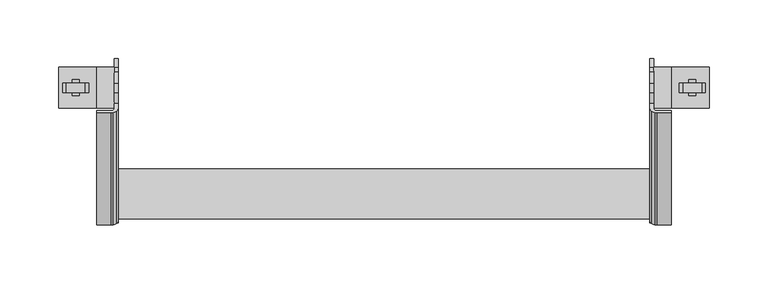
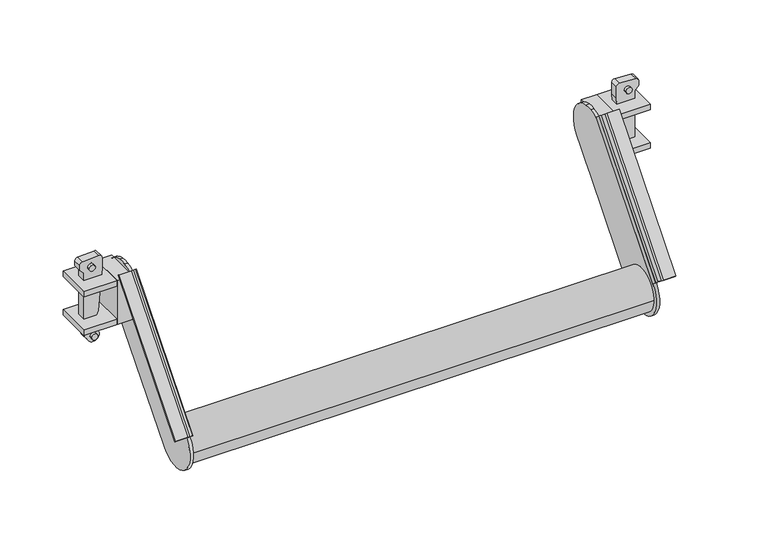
"""IFC4 building model written with IfcOpenShell, lengths in millimetres: proxy geometry, アルバトロスＡＫ階段受け_軽 : アルバトロスＡＫ階段受けL=600."""

import ifcopenshell
import ifcopenshell.guid

model = None  # the IFC model being written
_history = None  # IfcOwnerHistory: only IFC2X3 demands one
_inside = {}  # id of a spatial element -> (the spatial element, [elements in it])
_under = {}  # id of a project, library or spatial element -> (it, [spatial elements below it])
_declared = {}  # id of a project -> (the project, [libraries it declares])
_typed = {}  # id of a type object -> (the type object, [elements of that type])
_made_of = {}  # id of a material, layer set ... -> (it, [elements and type objects made of it])


def new_model(schema):
    """Start an empty IFC model of exactly this schema.

    Asked for "IFC4X3", IfcOpenShell would pick the latest addendum, in which some entities
    have other attributes; the version numbers below select the first issue.
    IFC2X3 requires an IfcOwnerHistory on every rooted entity: one is made here for all.
    """
    global model, _history
    if schema == "IFC4X3":
        model = ifcopenshell.file(schema_version=(4, 3, 0, 0))
    else:
        model = ifcopenshell.file(schema=schema)
    _inside.clear()
    _under.clear()
    _declared.clear()
    _typed.clear()
    _made_of.clear()
    _history = None
    if model.schema == "IFC2X3":
        org = make("IfcOrganization", Name="unknown")
        user = make(
            "IfcPersonAndOrganization",
            ThePerson=make("IfcPerson", FamilyName="unknown"),
            TheOrganization=org,
        )
        app = make(
            "IfcApplication",
            ApplicationDeveloper=org,
            Version="unknown",
            ApplicationFullName="unknown",
            ApplicationIdentifier="unknown",
        )
        _history = make(
            "IfcOwnerHistory",
            OwningUser=user,
            OwningApplication=app,
            ChangeAction="ADDED",
            CreationDate=0,
        )
    return model


def make(cls, **values):
    """One entity of the class cls with the attributes given. An attribute that is None is left unset."""
    return model.create_entity(
        cls, **{name: value for name, value in values.items() if value is not None}
    )


def rooted(cls, **values):
    """An entity with a GlobalId (a new one), such as an element, a storey or a relation."""
    return make(cls, GlobalId=ifcopenshell.guid.new(), OwnerHistory=_history, **values)


def si_unit(unit_type, name, prefix=None):
    """IfcSIUnit, for example si_unit("LENGTHUNIT", "METRE", prefix="MILLI")."""
    return make("IfcSIUnit", UnitType=unit_type, Prefix=prefix, Name=name)


def assignment(units):
    """IfcUnitAssignment: the units of a project."""
    return None if units is None else make("IfcUnitAssignment", Units=units)


def point(xyz):
    """IfcCartesianPoint."""
    return None if xyz is None else make("IfcCartesianPoint", Coordinates=xyz)


def direction(xyz):
    """IfcDirection."""
    return None if xyz is None else make("IfcDirection", DirectionRatios=xyz)


def frame(location, z_axis=None, x_axis=None):
    """IfcAxis2Placement3D, a coordinate frame: its origin and axes. An axis left out is left unset."""
    return make(
        "IfcAxis2Placement3D",
        Location=point(location),
        Axis=direction(z_axis),
        RefDirection=direction(x_axis),
    )


def frame_2d(location, x_axis=None):
    """IfcAxis2Placement2D, a coordinate frame in the plane: its origin and x axis."""
    return make(
        "IfcAxis2Placement2D", Location=point(location), RefDirection=direction(x_axis)
    )


def origin():
    """The frame at (0, 0, 0) with its axes left unset."""
    return frame((0.0, 0.0, 0.0))


def place(relative_to, where):
    """IfcLocalPlacement: puts the frame where relative to a parent placement (None: the world)."""
    return make(
        "IfcLocalPlacement", PlacementRelTo=relative_to, RelativePlacement=where
    )


def context(
    kind, dimensions, precision=None, world=None, true_north=None, identifier=None
):
    """IfcGeometricRepresentationContext, for example the 3D "Model" context."""
    return make(
        "IfcGeometricRepresentationContext",
        ContextIdentifier=identifier,
        ContextType=kind,
        CoordinateSpaceDimension=dimensions,
        Precision=precision,
        WorldCoordinateSystem=world,
        TrueNorth=true_north,
    )


def project(units=None, contexts=None):
    """IfcProject with its units and contexts."""
    return rooted(
        "IfcProject",
        Name="project",
        RepresentationContexts=contexts,
        UnitsInContext=assignment(units),
    )


def spatial(cls, under=None, at=None, **own):
    """A site, building, storey or space (cls), placed at a placement, below another one or the project."""
    s = rooted(cls, ObjectPlacement=at, **own)
    if under is not None:
        _under.setdefault(under.id(), (under, []))[1].append(s)
    return s


def polyline(points):
    """IfcPolyline through the points."""
    return make("IfcPolyline", Points=[point(p) for p in points])


def circle_curve(where, radius):
    """IfcCircle in the frame where."""
    return make("IfcCircle", Position=where, Radius=radius)


def trimmed(basis, trim1, trim2, sense, master):
    """IfcTrimmedCurve: the piece of a basis curve between two trims."""
    return make(
        "IfcTrimmedCurve",
        BasisCurve=basis,
        Trim1=trim1,
        Trim2=trim2,
        SenseAgreement=sense,
        MasterRepresentation=master,
    )


def segment(curve, same_sense, transition):
    """IfcCompositeCurveSegment."""
    return make(
        "IfcCompositeCurveSegment",
        Transition=transition,
        SameSense=same_sense,
        ParentCurve=curve,
    )


def composite_curve(segments, self_intersect=None):
    """IfcCompositeCurve: segments joined end to end."""
    return make("IfcCompositeCurve", Segments=segments, SelfIntersect=self_intersect)


def outline(outer, holes=None, kind="AREA"):
    """IfcArbitraryClosedProfileDef: a profile drawn as a closed curve; with holes, ...WithVoids."""
    if holes is None:
        return make("IfcArbitraryClosedProfileDef", ProfileType=kind, OuterCurve=outer)
    return make(
        "IfcArbitraryProfileDefWithVoids",
        ProfileType=kind,
        OuterCurve=outer,
        InnerCurves=holes,
    )


def extrude(swept, where, along, depth):
    """IfcExtrudedAreaSolid: the profile swept, set in the frame where, extruded along a direction by depth."""
    return make(
        "IfcExtrudedAreaSolid",
        SweptArea=swept,
        Position=where,
        ExtrudedDirection=direction(along),
        Depth=depth,
    )


def shape(context_of_items, identifier, shape_type, items):
    """IfcShapeRepresentation: the items that make up one representation, for example the "Body"."""
    return make(
        "IfcShapeRepresentation",
        ContextOfItems=context_of_items,
        RepresentationIdentifier=identifier,
        RepresentationType=shape_type,
        Items=items,
    )


def source(mapping_origin, context_of_items, identifier, shape_type, items):
    """IfcRepresentationMap: a shape defined once, which mapped items show again and again."""
    return make(
        "IfcRepresentationMap",
        MappingOrigin=mapping_origin,
        MappedRepresentation=shape(context_of_items, identifier, shape_type, items),
    )


def transform(
    local_origin,
    x_axis=None,
    y_axis=None,
    z_axis=None,
    scale=None,
    scale2=None,
    scale3=None,
    uniform=True,
):
    """IfcCartesianTransformationOperator3D, or its non-uniform kind. x_axis, y_axis, z_axis: its Axis1, 2, 3."""
    if uniform:
        return make(
            "IfcCartesianTransformationOperator3D",
            Axis1=direction(x_axis),
            Axis2=direction(y_axis),
            LocalOrigin=point(local_origin),
            Scale=scale,
            Axis3=direction(z_axis),
        )
    return make(
        "IfcCartesianTransformationOperator3DnonUniform",
        Axis1=direction(x_axis),
        Axis2=direction(y_axis),
        LocalOrigin=point(local_origin),
        Scale=scale,
        Axis3=direction(z_axis),
        Scale2=scale2,
        Scale3=scale3,
    )


def mapped(mapping_source, mapping_target):
    """IfcMappedItem: shows the shape of a source again, moved by a transform."""
    return make(
        "IfcMappedItem", MappingSource=mapping_source, MappingTarget=mapping_target
    )


def made_of(thing, what):
    """Note that an element or type object is made of a material, layer set ...; save() writes the relation."""
    if what is not None:
        _made_of.setdefault(what.id(), (what, []))[1].append(thing)
    return thing


def element(
    cls,
    number,
    at=None,
    inside=None,
    cuts=None,
    type_object=None,
    material=None,
    context=None,
    identifier="Body",
    shape_type=None,
    held_by="IfcProductDefinitionShape",
    body=None,
    shapes=None,
    **own,
):
    """One element of the class cls, such as IfcWall. Its Tag is "e" and its number.

    at: its placement. inside: the storey or other place that contains it. cuts: it is an
    opening in that element (IfcRelVoidsElement). A single representation is given by context,
    identifier, shape_type and body (its items); several are given by shapes. held_by: the class
    of the entity that holds the representations. save() writes the other relations.
    """
    e = rooted(cls, Tag="e%d" % number, ObjectPlacement=at, **own)
    if body is not None:
        shapes = [shape(context, identifier, shape_type, body)]
    if shapes is not None:
        e.Representation = make(held_by, Representations=shapes)
    if inside is not None:
        _inside.setdefault(inside.id(), (inside, []))[1].append(e)
    if cuts is not None:
        rooted(
            "IfcRelVoidsElement", RelatingBuildingElement=cuts, RelatedOpeningElement=e
        )
    if type_object is not None:
        _typed.setdefault(type_object.id(), (type_object, []))[1].append(e)
    return made_of(e, material)


def aggregate(whole, parts):
    """IfcRelAggregates: a whole, such as a stair, and the parts it consists of."""
    return rooted("IfcRelAggregates", RelatingObject=whole, RelatedObjects=parts)


def save(model, path):
    """Write the relations noted so far, then the file.

    IfcRelAggregates (storeys below a building ...), IfcRelContainedInSpatialStructure (elements
    in a storey), IfcRelDefinesByType, IfcRelAssociatesMaterial and IfcRelDeclares: one each for
    every whole, place, type object, material and project.
    """
    for whole, parts in _under.values():
        aggregate(whole, parts)
    for where, things in _inside.values():
        rooted(
            "IfcRelContainedInSpatialStructure",
            RelatedElements=things,
            RelatingStructure=where,
        )
    for kind, things in _typed.values():
        rooted("IfcRelDefinesByType", RelatedObjects=things, RelatingType=kind)
    for what, things in _made_of.values():
        rooted("IfcRelAssociatesMaterial", RelatedObjects=things, RelatingMaterial=what)
    for by, libraries in _declared.values():
        rooted("IfcRelDeclares", RelatingContext=by, RelatedDefinitions=libraries)
    model.write(path)


def plane_surface(at):
    """IfcPlane: the flat surface through the origin of the frame at, square to its z axis."""
    return make("IfcPlane", Position=at)


def cylinder_surface(at, radius):
    """IfcCylindricalSurface: all points at the distance radius from the z axis of the frame at."""
    return make("IfcCylindricalSurface", Position=at, Radius=radius)


def revolved_surface(curve, axis_point, axis_direction):
    """IfcSurfaceOfRevolution: the curve turned about the line through axis_point along axis_direction."""
    return make(
        "IfcSurfaceOfRevolution",
        SweptCurve=make("IfcArbitraryOpenProfileDef", ProfileType="CURVE", Curve=curve),
        AxisPosition=make("IfcAxis1Placement", Location=point(axis_point), Axis=direction(axis_direction)),
    )


def advanced_brep(points, edges, surfaces, faces):
    """IfcAdvancedBrep: a solid bounded by faces that lie on surfaces and meet in shared edges.

    An edge is (start, end): straight between two places in points (the first is 0);
    or (start, end, curve); or (start, end, curve, False) where it runs against its curve.
    A face is (place in surfaces, loops), or (place, loops, False) where it looks against
    its surface's normal. A loop lists edges by number (the first is 1), with a minus sign
    where the edge is run from its end to its start. The first loop is the outer one.
    """
    corners = [point(p) for p in points]
    vertices = [make("IfcVertexPoint", VertexGeometry=c) for c in corners]
    made = []
    for start, end, *more in edges:
        made.append(
            make(
                "IfcEdgeCurve",
                EdgeStart=vertices[start],
                EdgeEnd=vertices[end],
                EdgeGeometry=more[0] if more else make("IfcPolyline", Points=[corners[start], corners[end]]),
                SameSense=more[1] if len(more) > 1 else True,
            )
        )
    hull = []
    for where, loops, *sense in faces:
        bounds = []
        for j, loop in enumerate(loops):
            ring = [make("IfcOrientedEdge", EdgeElement=made[abs(k) - 1], Orientation=k > 0) for k in loop]
            bounds.append(
                make(
                    "IfcFaceOuterBound" if j == 0 else "IfcFaceBound",
                    Bound=make("IfcEdgeLoop", EdgeList=ring),
                    Orientation=True,
                )
            )
        hull.append(make("IfcAdvancedFace", Bounds=bounds, FaceSurface=surfaces[where], SameSense=sense[0] if sense else True))
    return make("IfcAdvancedBrep", Outer=make("IfcClosedShell", CfsFaces=hull))


def generic_models_9ba98fb6(model_context):
    return source(origin(), model_context, "Body", "SolidModel", [
        extrude(outline(composite_curve([segment(trimmed(circle_curve(frame_2d((11.8000984, -9.7357724)), 9.7357724), [point((11.8000984, 0.0))], [point((14.2492943, -0.3131027))], False, "CARTESIAN"), True, "CONTINUOUS"), segment(trimmed(circle_curve(frame_2d((12.9630797, -6.2319614)), 6.0569989), [point((14.2492943, -0.3131027))], [point((17.1215477, -1.8280564))], False, "CARTESIAN"), True, "CONTINUOUS"), segment(trimmed(circle_curve(frame_2d((14.7414988, -4.3485782)), 3.4666502), [point((17.1215477, -1.8280564))], [point((18.2001533, -4.113266))], False, "CARTESIAN"), True, "CONTINUOUS"), segment(polyline([(18.2001533, -4.113266), (18.2001533, -4.9115919), (18.2001533, -10.0000796), (15.0001259, -10.0000796), (15.0001259, -4.2792333)]), True, "CONTINUOUS"), segment(trimmed(circle_curve(frame_2d((13.1269546, -4.2792333)), 1.8731712), [point((15.0001259, -4.2792333))], [point((14.1616095, -2.7177405))], True, "CARTESIAN"), True, "CONTINUOUS"), segment(trimmed(circle_curve(frame_2d((12.2844233, -5.5507747)), 3.398516), [point((14.1616095, -2.7177405))], [point((13.1884404, -2.2747002))], True, "CARTESIAN"), True, "CONTINUOUS"), segment(trimmed(circle_curve(frame_2d((11.8000984, -6.5851611)), 4.5285281), [point((13.1884404, -2.2747002))], [point((11.8000984, -2.056633))], True, "CARTESIAN"), True, "CONTINUOUS"), segment(polyline([(11.8000984, -2.056633), (0.0, -2.056633), (0.0, 0.0), (11.8000984, 0.0)]), True, "CONTINUOUS")], self_intersect=False)), frame((545.2046585, -117.4153513, -83.5064838), z_axis=(0.0, 0.6426904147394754, 0.766125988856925), x_axis=(-1.0, 0.0, 0.0)), (0.0, 0.0, 1.0), 149.5729326),
        advanced_brep(
        [(527.0045052, -71.4170946, -122.0320182), (527.0045052, -109.7540265, -89.9334299), (527.0045052, -19.1532386, 18.0674174), (527.0045052, -13.564759, 23.0001302), (527.0045052, -4.0000184, 26.6780861), (527.0045052, 4.0000533, 26.678085), (527.0045052, 13.5647929, 23.0001265), (527.0045052, 17.5001651, 19.8536704), (527.0045052, 19.1532686, -14.0675085), (527.0045052, 11.6596821, -23.0002552), (527.0045052, 4.0001362, -32.1309487), (527.0045052, -4.000061, -41.6673923), (530.2045326, -71.4170946, -122.0320182), (530.2045326, -4.000061, -41.6673923), (530.2045326, 4.0672955, -32.0506818), (530.2045326, 11.6596821, -23.0002552), (530.2045326, 19.1532686, -14.0675085), (530.2045326, 17.5001651, 19.8536704), (530.2045326, 13.5647929, 23.0001265), (530.2045326, 4.0000533, 26.678085), (530.2045326, -4.0000184, 26.6780861), (530.2045326, -13.564759, 23.0001302), (530.2045326, -19.1532386, 18.0674174), (530.2045326, -109.7540271, -89.9334352)],
        [
            (0, 1, circle_curve(frame((527.0045052, -90.600769, -106.0008883), z_axis=(-1.0, 0.0, 0.0), x_axis=(0.0, 1.0, 0.0)), 25.0002098)),
            (1, 2),
            (2, 3, circle_curve(frame((527.0045052, 1.42e-05, 1.9999535), z_axis=(-1.0, 0.0, 0.0), x_axis=(0.0, 1.0, 0.0)), 25.0002098)),
            (3, 4, circle_curve(frame((527.0045052, 1.42e-05, 1.9999535), z_axis=(-1.0, 0.0, 0.0), x_axis=(0.0, 1.0, 0.0)), 25.0002098)),
            (4, 5, circle_curve(frame((527.0045052, 1.42e-05, 1.9999535), z_axis=(-1.0, 0.0, 0.0), x_axis=(0.0, 1.0, 0.0)), 25.0002098)),
            (5, 6, circle_curve(frame((527.0045052, 1.42e-05, 1.9999535), z_axis=(-1.0, 0.0, 0.0), x_axis=(0.0, 1.0, 0.0)), 25.0002098)),
            (6, 7, circle_curve(frame((527.0045052, 1.42e-05, 1.9999535), z_axis=(-1.0, 0.0, 0.0), x_axis=(0.0, 1.0, 0.0)), 25.0002098)),
            (7, 8, circle_curve(frame((527.0045052, 1.42e-05, 1.9999535), z_axis=(-1.0, 0.0, 0.0), x_axis=(0.0, 1.0, 0.0)), 25.0002098)),
            (8, 9),
            (9, 10),
            (10, 11),
            (11, 0),
            (12, 13),
            (13, 14),
            (14, 15),
            (15, 16),
            (16, 17, circle_curve(frame((530.2045326, 1.42e-05, 1.9999535), z_axis=(1.0, 0.0, 0.0), x_axis=(0.0, 1.0, 0.0)), 25.0002098)),
            (17, 18, circle_curve(frame((530.2045326, 1.42e-05, 1.9999535), z_axis=(1.0, 0.0, 0.0), x_axis=(0.0, 1.0, 0.0)), 25.0002098)),
            (18, 19, circle_curve(frame((530.2045326, 1.42e-05, 1.9999535), z_axis=(1.0, 0.0, 0.0), x_axis=(0.0, 1.0, 0.0)), 25.0002098)),
            (19, 20, circle_curve(frame((530.2045326, 1.42e-05, 1.9999535), z_axis=(1.0, 0.0, 0.0), x_axis=(0.0, 1.0, 0.0)), 25.0002098)),
            (20, 21, circle_curve(frame((530.2045326, 1.42e-05, 1.9999535), z_axis=(1.0, 0.0, 0.0), x_axis=(0.0, 1.0, 0.0)), 25.0002098)),
            (21, 22, circle_curve(frame((530.2045326, 1.42e-05, 1.9999535), z_axis=(1.0, 0.0, 0.0), x_axis=(0.0, 1.0, 0.0)), 25.0002098)),
            (22, 23),
            (23, 12, circle_curve(frame((530.2045326, -90.600769, -106.0008883), z_axis=(1.0, 0.0, 0.0), x_axis=(0.0, 1.0, 0.0)), 25.0002098)),
            (11, 13),
            (12, 0),
            (10, 14),
            (9, 15),
            (8, 16),
            (7, 17),
            (6, 18),
            (5, 19),
            (4, 20),
            (3, 21),
            (2, 22),
            (1, 23),
        ],
        [
            plane_surface(frame((527.0045052, -65.6005592, -106.0008883), z_axis=(-1.0, 0.0, 0.0), x_axis=(0.0, 0.0, -1.0))),
            plane_surface(frame((530.2045326, -65.6005592, -106.0008883), z_axis=(1.0, 0.0, 0.0), x_axis=(0.0, 0.0, 1.0))),
            plane_surface(frame((527.0045052, -4.000061, -41.6673923), z_axis=(0.0, 0.7661237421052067, -0.6426930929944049), x_axis=(1.0, 0.0, 0.0))),
            plane_surface(frame((527.0045052, 4.0672955, -32.0506818), z_axis=(0.0, 0.7661237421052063, -0.6426930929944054), x_axis=(1.0, 0.0, 0.0))),
            plane_surface(frame((527.0045052, 11.6596821, -23.0002552), z_axis=(0.0, 0.76612771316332, -0.6426883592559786), x_axis=(1.0, 0.0, 0.0))),
            plane_surface(frame((527.0045052, 19.1532686, -14.0675085), z_axis=(0.0, 0.7661237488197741, -0.6426930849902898), x_axis=(1.0, 0.0, 0.0))),
            cylinder_surface(frame((530.2045326, 1.42e-05, 1.9999535), z_axis=(-1.0, 0.0, 0.0), x_axis=(0.0, 1.0, 0.0)), 25.0002098),
            plane_surface(frame((527.0045052, -109.7540271, -89.9334352), z_axis=(0.0, -0.7661236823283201, 0.6426931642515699), x_axis=(1.0, 0.0, 0.0))),
            cylinder_surface(frame((530.2045326, -90.600769, -106.0008883), z_axis=(-1.0, 0.0, 0.0), x_axis=(0.0, 1.0, 0.0)), 25.0002098),
        ],
        [
            (0, [[1, 2, 3, 4, 5, 6, 7, 8, 9, 10, 11, 12]]),
            (1, [[13, 14, 15, 16, 17, 18, 19, 20, 21, 22, 23, 24]]),
            (2, [[-12, 25, -13, 26]]),
            (3, [[-11, 27, -14, -25]]),
            (4, [[-10, 28, -15, -27]]),
            (5, [[-9, 29, -16, -28]]),
            (6, [[-8, 30, -17, -29]]),
            (6, [[-7, 31, -18, -30]]),
            (6, [[-6, 32, -19, -31]]),
            (6, [[-5, 33, -20, -32]]),
            (6, [[-4, 34, -21, -33]]),
            (6, [[-3, 35, -22, -34]]),
            (7, [[-2, 36, -23, -35]]),
            (8, [[-1, -26, -24, -36]]),
        ],
    ),
        extrude(outline(composite_curve([segment(polyline([(-11.8000984, 0.0), (0.0, 0.0), (0.0, -2.056633), (-11.8000984, -2.056633)]), True, "CONTINUOUS"), segment(trimmed(circle_curve(frame_2d((-11.8000984, -6.5851611)), 4.5285281), [point((-11.8000984, -2.056633))], [point((-13.1884404, -2.2747002))], True, "CARTESIAN"), True, "CONTINUOUS"), segment(trimmed(circle_curve(frame_2d((-12.2844233, -5.5507747)), 3.398516), [point((-13.1884404, -2.2747002))], [point((-14.1616095, -2.7177405))], True, "CARTESIAN"), True, "CONTINUOUS"), segment(trimmed(circle_curve(frame_2d((-13.1269546, -4.2792333)), 1.8731712), [point((-14.1616095, -2.7177405))], [point((-15.0001259, -4.2792333))], True, "CARTESIAN"), True, "CONTINUOUS"), segment(polyline([(-15.0001259, -4.2792333), (-15.0001259, -10.0000796), (-18.2001533, -10.0000796), (-18.2001533, -4.9115919), (-18.2001533, -4.113266)]), True, "CONTINUOUS"), segment(trimmed(circle_curve(frame_2d((-14.7414988, -4.3485782)), 3.4666502), [point((-18.2001533, -4.113266))], [point((-17.1215477, -1.8280564))], False, "CARTESIAN"), True, "CONTINUOUS"), segment(trimmed(circle_curve(frame_2d((-12.9630797, -6.2319614)), 6.0569989), [point((-17.1215477, -1.8280564))], [point((-14.2492943, -0.3131027))], False, "CARTESIAN"), True, "CONTINUOUS"), segment(trimmed(circle_curve(frame_2d((-11.8000984, -9.7357724)), 9.7357724), [point((-14.2492943, -0.3131027))], [point((-11.8000984, 0.0))], False, "CARTESIAN"), True, "CONTINUOUS")], self_intersect=False)), frame((54.7953415, -117.4153513, -83.5064838), z_axis=(0.0, 0.6426904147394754, 0.766125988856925), x_axis=(-1.0, 0.0, 0.0)), (0.0, 0.0, 1.0), 149.5729326),
        extrude(outline(polyline([(530.2045326, -17.5001831), (530.2045326, 17.500061), (545.2046585, 17.500061), (545.2046585, -17.5001831), (530.2045326, -17.5001831)])), frame((0.0, 0.0, -23.0001931), z_axis=(0.0, 0.0, 1.0), x_axis=(1.0, 0.0, 0.0)), (0.0, 0.0, 1.0), 46.0003862),
        extrude(outline(polyline([(545.2046585, -17.5001831), (545.2046585, 17.500061), (577.7249298, 17.500061), (577.7249298, -17.5001831), (545.2046585, -17.5001831)])), frame((0.0, 0.0, -23.0001931), z_axis=(0.0, 0.0, 1.0), x_axis=(1.0, 0.0, 0.0)), (0.0, 0.0, 1.0), 6.0000505),
        extrude(outline(polyline([(545.2046585, -17.5001831), (545.2046585, 17.500061), (577.7249298, 17.500061), (577.7249298, -17.5001831), (545.2046585, -17.5001831)])), frame((0.0, 0.0, 17.0001426), z_axis=(0.0, 0.0, 1.0), x_axis=(1.0, 0.0, 0.0)), (0.0, 0.0, 1.0), 6.0000505),
        extrude(outline(composite_curve([segment(trimmed(circle_curve(frame_2d((-36.8688423, 560.6740685)), 3.000025), [point((-36.8688423, 563.6740935))], [point((-36.8688423, 557.6740435))], False, "CARTESIAN"), True, "CONTINUOUS"), segment(trimmed(circle_curve(frame_2d((-36.8688423, 560.6740685)), 3.000025), [point((-36.8688423, 557.6740435))], [point((-36.8688423, 563.6740935))], False, "CARTESIAN"), True, "CONTINUOUS")], self_intersect=False)), frame((0.0, -6.7180681, 0.0), z_axis=(0.0, 1.0, 0.0), x_axis=(0.0, 0.0, 1.0)), (0.0, 0.0, 1.0), 13.4905305),
        extrude(outline(composite_curve([segment(trimmed(circle_curve(frame_2d((35.318295, 563.1048088)), 3.000025), [point((35.318295, 566.1048338))], [point((35.318295, 560.1047838))], False, "CARTESIAN"), True, "CONTINUOUS"), segment(trimmed(circle_curve(frame_2d((35.318295, 563.1048088)), 3.000025), [point((35.318295, 560.1047838))], [point((35.318295, 566.1048338))], False, "CARTESIAN"), True, "CONTINUOUS")], self_intersect=False)), frame((0.0, -6.7180681, 0.0), z_axis=(0.0, 1.0, 0.0), x_axis=(0.0, 0.0, 1.0)), (0.0, 0.0, 1.0), 13.4905305),
        advanced_brep(
        [(570.104866, -4.000061, 23.0001931), (570.104866, -4.000061, 31.3182626), (574.1049004, -4.000061, 35.318295), (574.1049004, -4.000061, 40.1273351), (571.1049024, -4.000061, 43.1273601), (555.1047689, -4.000061, 44.0563686), (552.1047151, -4.000061, 41.0563436), (552.1047134, -4.000061, 29.3182692), (553.2329292, -4.000061, 17.0001426), (555.9327461, -4.000061, -12.4770955), (557.7334455, -4.000061, -17.0001397), (558.6987605, -4.000061, -23.0001924), (557.6076064, -4.000061, -31.3049199), (555.9855843, -4.000061, -33.6219478), (565.2963577, -4.000061, -41.1471163), (570.1048641, -4.000061, -28.9002414), (570.104866, -4.000061, -23.0001922), (570.104866, -4.000061, -17.0001426), (570.104866, -4.000061, 17.0001426), (570.104866, 4.000061, 23.0001931), (570.104866, 4.000061, 17.0001426), (570.104866, 4.000061, -17.0001426), (570.104866, 4.000061, -23.0001922), (570.104866, 4.000061, -28.9002414), (565.2963577, 4.000061, -41.1471163), (555.9855849, 4.000061, -33.6219485), (557.6076064, 4.000061, -31.3049199), (558.6987605, 4.000061, -23.0001924), (557.7334455, 4.000061, -17.0001397), (555.9327461, 4.000061, -12.4770955), (553.2329292, 4.000061, 17.0001426), (552.1047134, 4.000061, 29.3182692), (552.1047134, 4.000061, 41.0563436), (555.1047689, 4.000061, 44.0563686), (571.1049024, 4.000061, 43.1273601), (574.1048987, 4.000061, 40.1273351), (574.1049004, 4.000061, 35.318295), (570.104866, 4.000061, 31.3182626)],
        [
            (0, 1),
            (1, 2),
            (2, 3),
            (3, 4, circle_curve(frame((571.1048737, -4.000061, 40.1273351), z_axis=(0.0, -1.0, 0.0), x_axis=(-1.0, 0.0, 0.0)), 3.000025)),
            (4, 5),
            (5, 6, circle_curve(frame((555.1047401, -4.000061, 41.0563436), z_axis=(0.0, -1.0, 0.0), x_axis=(-1.0, 0.0, 0.0)), 3.000025)),
            (6, 7),
            (7, 8),
            (8, 9),
            (9, 10, circle_curve(frame((533.7162895, -4.000061, -23.9418044), z_axis=(0.0, 1.0, 0.0), x_axis=(-1.0, 0.0, 0.0)), 25.0002098)),
            (10, 11),
            (11, 12, circle_curve(frame((533.7162895, -4.000061, -23.9418044), z_axis=(0.0, 1.0, 0.0), x_axis=(-1.0, 0.0, 0.0)), 25.0002098)),
            (12, 13),
            (13, 14, circle_curve(frame((560.9008598, -4.000061, -37.0629764), z_axis=(0.0, -1.0, 0.0), x_axis=(-1.0, 0.0, 0.0)), 6.0000501)),
            (14, 15, circle_curve(frame((552.1047134, -4.000061, -28.9002414), z_axis=(0.0, -1.0, 0.0), x_axis=(-1.0, 0.0, 0.0)), 18.0001507)),
            (15, 16),
            (16, 17),
            (17, 18),
            (18, 0),
            (19, 20),
            (20, 21),
            (21, 22),
            (22, 23),
            (23, 24, circle_curve(frame((552.1047134, 4.000061, -28.9002414), z_axis=(0.0, 1.0, 0.0), x_axis=(-1.0, 0.0, 0.0)), 18.0001507)),
            (24, 25, circle_curve(frame((560.9008598, 4.000061, -37.0629764), z_axis=(0.0, 1.0, 0.0), x_axis=(-1.0, 0.0, 0.0)), 6.0000501)),
            (25, 26),
            (26, 27, circle_curve(frame((533.7162895, 4.000061, -23.9418044), z_axis=(0.0, -1.0, 0.0), x_axis=(-1.0, 0.0, 0.0)), 25.0002098)),
            (27, 28),
            (28, 29, circle_curve(frame((533.7162895, 4.000061, -23.9418044), z_axis=(0.0, -1.0, 0.0), x_axis=(-1.0, 0.0, 0.0)), 25.0002098)),
            (29, 30),
            (30, 31),
            (31, 32),
            (32, 33, circle_curve(frame((555.1047401, 4.000061, 41.0563436), z_axis=(0.0, 1.0, 0.0), x_axis=(-1.0, 0.0, 0.0)), 3.000025)),
            (33, 34),
            (34, 35, circle_curve(frame((571.1048737, 4.000061, 40.1273351), z_axis=(0.0, 1.0, 0.0), x_axis=(-1.0, 0.0, 0.0)), 3.000025)),
            (35, 36),
            (36, 37),
            (37, 19),
            (18, 20),
            (19, 0),
            (17, 21),
            (16, 22),
            (15, 23),
            (14, 24),
            (13, 25),
            (12, 26),
            (11, 27),
            (10, 28),
            (9, 29),
            (8, 30),
            (7, 31),
            (6, 32),
            (5, 33),
            (4, 34),
            (3, 35),
            (2, 36),
            (1, 37),
        ],
        [
            plane_surface(frame((570.104866, -4.000061, 31.3182626), z_axis=(0.0, -1.0, 0.0), x_axis=(0.0, 0.0, 1.0))),
            plane_surface(frame((570.104866, 4.000061, 31.3182626), z_axis=(0.0, 1.0, 0.0), x_axis=(0.0, 0.0, -1.0))),
            plane_surface(frame((570.104866, -4.000061, 17.0001426), z_axis=(1.0, 0.0, 0.0), x_axis=(0.0, 1.0, 0.0))),
            plane_surface(frame((570.104866, -4.000061, -17.0001426), z_axis=(1.0, 0.0, 0.0), x_axis=(0.0, 1.0, 0.0))),
            plane_surface(frame((570.104866, -4.000061, -23.0001922), z_axis=(1.0, 0.0, 0.0), x_axis=(0.0, 1.0, 0.0))),
            plane_surface(frame((570.104866, -4.000061, -28.9002414), z_axis=(1.0, 0.0, 0.0), x_axis=(0.0, 1.0, 0.0))),
            cylinder_surface(frame((552.1047134, 4.000061, -28.9002414), z_axis=(0.0, -1.0, 0.0), x_axis=(-1.0, 0.0, 0.0)), 18.0001507),
            cylinder_surface(frame((560.9008598, 4.000061, -37.0629764), z_axis=(0.0, -1.0, 0.0), x_axis=(-1.0, 0.0, 0.0)), 6.0000501),
            plane_surface(frame((557.6076064, -4.000061, -31.3049199), z_axis=(-0.81921487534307, 0.0, 0.5734866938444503), x_axis=(0.0, 1.0, 0.0))),
            revolved_surface(polyline([(508.7160797, 4.000061, -23.9418044), (508.7160797, -4.000061, -23.9418044)]), (533.7162895, 4.000061, -23.9418044), (0.0, 1.0, 0.0)),
            plane_surface(frame((557.7334455, -4.000061, -17.0001397), z_axis=(-0.9873040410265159, 0.0, -0.15884184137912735), x_axis=(0.0, 1.0, 0.0))),
            plane_surface(frame((553.2329292, -4.000061, 17.0001426), z_axis=(-0.995831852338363, 0.0, -0.09120812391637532), x_axis=(0.0, 1.0, 0.0))),
            plane_surface(frame((552.1047134, -4.000061, 29.3182692), z_axis=(-0.995831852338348, 0.0, -0.0912081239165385), x_axis=(0.0, 1.0, 0.0))),
            plane_surface(frame((552.1047134, -4.000061, 41.0563436), z_axis=(-1.0, 0.0, 0.0), x_axis=(0.0, 1.0, 0.0))),
            cylinder_surface(frame((555.1047401, 4.000061, 41.0563436), z_axis=(0.0, -1.0, 0.0), x_axis=(-1.0, 0.0, 0.0)), 3.000025),
            plane_surface(frame((571.1049024, -4.000061, 43.1273601), z_axis=(0.05796492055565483, 0.0, 0.998318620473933), x_axis=(0.0, 1.0, 0.0))),
            cylinder_surface(frame((571.1048737, 4.000061, 40.1273351), z_axis=(0.0, -1.0, 0.0), x_axis=(-1.0, 0.0, 0.0)), 3.000025),
            plane_surface(frame((574.1049004, -4.000061, 35.318295), z_axis=(1.0, 0.0, 0.0), x_axis=(0.0, 1.0, 0.0))),
            plane_surface(frame((570.104866, -4.000061, 31.3182626), z_axis=(0.7071066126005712, 0.0, -0.7071069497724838), x_axis=(0.0, 1.0, 0.0))),
            plane_surface(frame((570.104866, -4.000061, 23.0001931), z_axis=(1.0, 0.0, 0.0), x_axis=(0.0, 1.0, 0.0))),
        ],
        [
            (0, [[1, 2, 3, 4, 5, 6, 7, 8, 9, 10, 11, 12, 13, 14, 15, 16, 17, 18, 19]]),
            (1, [[20, 21, 22, 23, 24, 25, 26, 27, 28, 29, 30, 31, 32, 33, 34, 35, 36, 37, 38]]),
            (2, [[-19, 39, -20, 40]]),
            (3, [[-18, 41, -21, -39]]),
            (4, [[-17, 42, -22, -41]]),
            (5, [[-16, 43, -23, -42]]),
            (6, [[-15, 44, -24, -43]]),
            (7, [[-14, 45, -25, -44]]),
            (8, [[-13, 46, -26, -45]]),
            (9, [[-12, 47, -27, -46]]),
            (10, [[-11, 48, -28, -47]]),
            (9, [[-10, 49, -29, -48]]),
            (11, [[-9, 50, -30, -49]]),
            (12, [[-8, 51, -31, -50]]),
            (13, [[-7, 52, -32, -51]]),
            (14, [[-6, 53, -33, -52]]),
            (15, [[-5, 54, -34, -53]]),
            (16, [[-4, 55, -35, -54]]),
            (17, [[-3, 56, -36, -55]]),
            (18, [[-2, 57, -37, -56]]),
            (19, [[-1, -40, -38, -57]]),
        ],
    ),
        extrude(outline(polyline([(69.7954674, 17.500061), (69.7954674, -17.5001831), (54.7953415, -17.5001831), (54.7953415, 17.500061), (69.7954674, 17.500061)])), frame((0.0, 0.0, -23.0001931), z_axis=(0.0, 0.0, 1.0), x_axis=(1.0, 0.0, 0.0)), (0.0, 0.0, 1.0), 46.0003862),
        extrude(outline(polyline([(54.7953415, 17.500061), (54.7953415, -17.5001831), (22.2750702, -17.5001831), (22.2750702, 17.500061), (54.7953415, 17.500061)])), frame((0.0, 0.0, -23.0001931), z_axis=(0.0, 0.0, 1.0), x_axis=(1.0, 0.0, 0.0)), (0.0, 0.0, 1.0), 6.0000505),
        extrude(outline(polyline([(54.7953415, 17.500061), (54.7953415, -17.5001831), (22.2750702, -17.5001831), (22.2750702, 17.500061), (54.7953415, 17.500061)])), frame((0.0, 0.0, 17.0001426), z_axis=(0.0, 0.0, 1.0), x_axis=(1.0, 0.0, 0.0)), (0.0, 0.0, 1.0), 6.0000505),
        extrude(outline(composite_curve([segment(trimmed(circle_curve(frame_2d((-36.8688423, 39.3259315)), 3.000025), [point((-36.8688423, 36.3259065))], [point((-36.8688423, 42.3259565))], False, "CARTESIAN"), True, "CONTINUOUS"), segment(trimmed(circle_curve(frame_2d((-36.8688423, 39.3259315)), 3.000025), [point((-36.8688423, 42.3259565))], [point((-36.8688423, 36.3259065))], False, "CARTESIAN"), True, "CONTINUOUS")], self_intersect=False)), frame((0.0, -6.7180681, 0.0), z_axis=(0.0, 1.0, 0.0), x_axis=(0.0, 0.0, 1.0)), (0.0, 0.0, 1.0), 13.4905305),
        extrude(outline(composite_curve([segment(trimmed(circle_curve(frame_2d((35.318295, 36.8951912)), 3.000025), [point((35.318295, 33.8951662))], [point((35.318295, 39.8952162))], False, "CARTESIAN"), True, "CONTINUOUS"), segment(trimmed(circle_curve(frame_2d((35.318295, 36.8951912)), 3.000025), [point((35.318295, 39.8952162))], [point((35.318295, 33.8951662))], False, "CARTESIAN"), True, "CONTINUOUS")], self_intersect=False)), frame((0.0, -6.7180681, 0.0), z_axis=(0.0, 1.0, 0.0), x_axis=(0.0, 0.0, 1.0)), (0.0, 0.0, 1.0), 13.4905305),
        advanced_brep(
        [(29.895134, -4.000061, 23.0001931), (29.895134, -4.000061, 17.0001426), (29.895134, -4.000061, -17.0001426), (29.895134, -4.000061, -23.0001922), (29.895134, -4.000061, -28.9002414), (34.7036423, -4.000061, -41.1471163), (44.0144151, -4.000061, -33.6219485), (42.3923936, -4.000061, -31.3049199), (41.3012395, -4.000061, -23.0001924), (42.2665545, -4.000061, -17.0001397), (44.0672539, -4.000061, -12.4770955), (46.7670708, -4.000061, 17.0001426), (47.8952866, -4.000061, 29.3182692), (47.8952866, -4.000061, 41.0563436), (44.8952311, -4.000061, 44.0563686), (28.8950976, -4.000061, 43.1273601), (25.8951013, -4.000061, 40.1273351), (25.8950996, -4.000061, 35.318295), (29.895134, -4.000061, 31.3182626), (29.895134, 4.000061, 23.0001931), (29.895134, 4.000061, 31.3182626), (25.8950996, 4.000061, 35.318295), (25.8950996, 4.000061, 40.1273351), (28.8950976, 4.000061, 43.1273601), (44.8952311, 4.000061, 44.0563686), (47.8952849, 4.000061, 41.0563436), (47.8952866, 4.000061, 29.3182692), (46.7670708, 4.000061, 17.0001426), (44.0672539, 4.000061, -12.4770955), (42.2665545, 4.000061, -17.0001397), (41.3012395, 4.000061, -23.0001924), (42.3923936, 4.000061, -31.3049199), (44.0144157, 4.000061, -33.6219478), (34.7036423, 4.000061, -41.1471163), (29.8951359, 4.000061, -28.9002414), (29.895134, 4.000061, -23.0001922), (29.895134, 4.000061, -17.0001426), (29.895134, 4.000061, 17.0001426)],
        [
            (0, 1),
            (1, 2),
            (2, 3),
            (3, 4),
            (4, 5, circle_curve(frame((47.8952866, -4.000061, -28.9002414), z_axis=(0.0, -1.0, 0.0), x_axis=(1.0, 0.0, 0.0)), 18.0001507)),
            (5, 6, circle_curve(frame((39.0991402, -4.000061, -37.0629764), z_axis=(0.0, -1.0, 0.0), x_axis=(1.0, 0.0, 0.0)), 6.0000501)),
            (6, 7),
            (7, 8, circle_curve(frame((66.2837105, -4.000061, -23.9418044), z_axis=(0.0, 1.0, 0.0), x_axis=(1.0, 0.0, 0.0)), 25.0002098)),
            (8, 9),
            (9, 10, circle_curve(frame((66.2837105, -4.000061, -23.9418044), z_axis=(0.0, 1.0, 0.0), x_axis=(1.0, 0.0, 0.0)), 25.0002098)),
            (10, 11),
            (11, 12),
            (12, 13),
            (13, 14, circle_curve(frame((44.8952599, -4.000061, 41.0563436), z_axis=(0.0, -1.0, 0.0), x_axis=(1.0, 0.0, 0.0)), 3.000025)),
            (14, 15),
            (15, 16, circle_curve(frame((28.8951263, -4.000061, 40.1273351), z_axis=(0.0, -1.0, 0.0), x_axis=(1.0, 0.0, 0.0)), 3.000025)),
            (16, 17),
            (17, 18),
            (18, 0),
            (19, 20),
            (20, 21),
            (21, 22),
            (22, 23, circle_curve(frame((28.8951263, 4.000061, 40.1273351), z_axis=(0.0, 1.0, 0.0), x_axis=(1.0, 0.0, 0.0)), 3.000025)),
            (23, 24),
            (24, 25, circle_curve(frame((44.8952599, 4.000061, 41.0563436), z_axis=(0.0, 1.0, 0.0), x_axis=(1.0, 0.0, 0.0)), 3.000025)),
            (25, 26),
            (26, 27),
            (27, 28),
            (28, 29, circle_curve(frame((66.2837105, 4.000061, -23.9418044), z_axis=(0.0, -1.0, 0.0), x_axis=(1.0, 0.0, 0.0)), 25.0002098)),
            (29, 30),
            (30, 31, circle_curve(frame((66.2837105, 4.000061, -23.9418044), z_axis=(0.0, -1.0, 0.0), x_axis=(1.0, 0.0, 0.0)), 25.0002098)),
            (31, 32),
            (32, 33, circle_curve(frame((39.0991402, 4.000061, -37.0629764), z_axis=(0.0, 1.0, 0.0), x_axis=(1.0, 0.0, 0.0)), 6.0000501)),
            (33, 34, circle_curve(frame((47.8952866, 4.000061, -28.9002414), z_axis=(0.0, 1.0, 0.0), x_axis=(1.0, 0.0, 0.0)), 18.0001507)),
            (34, 35),
            (35, 36),
            (36, 37),
            (37, 19),
            (0, 19),
            (37, 1),
            (36, 2),
            (35, 3),
            (34, 4),
            (33, 5),
            (32, 6),
            (31, 7),
            (30, 8),
            (29, 9),
            (28, 10),
            (27, 11),
            (26, 12),
            (25, 13),
            (24, 14),
            (23, 15),
            (22, 16),
            (21, 17),
            (20, 18),
        ],
        [
            plane_surface(frame((29.895134, -4.000061, 17.0001426), z_axis=(0.0, -1.0, 0.0), x_axis=(0.0, 0.0, -1.0))),
            plane_surface(frame((29.895134, 4.000061, 17.0001426), z_axis=(0.0, 1.0, 0.0), x_axis=(0.0, 0.0, 1.0))),
            plane_surface(frame((29.895134, -4.000061, 23.0001931), z_axis=(-1.0, 0.0, 0.0), x_axis=(0.0, 1.0, 0.0))),
            plane_surface(frame((29.895134, -4.000061, 17.0001426), z_axis=(-1.0, 0.0, 0.0), x_axis=(0.0, 1.0, 0.0))),
            plane_surface(frame((29.895134, -4.000061, -17.0001426), z_axis=(-1.0, 0.0, 0.0), x_axis=(0.0, 1.0, 0.0))),
            plane_surface(frame((29.895134, -4.000061, -23.0001922), z_axis=(-1.0, 0.0, 0.0), x_axis=(0.0, 1.0, 0.0))),
            cylinder_surface(frame((47.8952866, 4.000061, -28.9002414), z_axis=(0.0, -1.0, 0.0), x_axis=(1.0, 0.0, 0.0)), 18.0001507),
            cylinder_surface(frame((39.0991402, 4.000061, -37.0629764), z_axis=(0.0, -1.0, 0.0), x_axis=(1.0, 0.0, 0.0)), 6.0000501),
            plane_surface(frame((44.0144157, -4.000061, -33.6219478), z_axis=(0.8192148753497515, 0.0, 0.5734866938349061), x_axis=(0.0, 1.0, 0.0))),
            revolved_surface(polyline([(91.2839203, 4.000061, -23.9418044), (91.2839203, -4.000061, -23.9418044)]), (66.2837105, 4.000061, -23.9418044), (0.0, 1.0, 0.0)),
            plane_surface(frame((41.3012395, -4.000061, -23.0001924), z_axis=(0.9873040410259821, 0.0, -0.15884184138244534), x_axis=(0.0, 1.0, 0.0))),
            plane_surface(frame((44.0672539, -4.000061, -12.4770955), z_axis=(0.9958318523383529, 0.0, -0.09120812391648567), x_axis=(0.0, 1.0, 0.0))),
            plane_surface(frame((46.7670708, -4.000061, 17.0001426), z_axis=(0.9958318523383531, 0.0, -0.09120812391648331), x_axis=(0.0, 1.0, 0.0))),
            plane_surface(frame((47.8952866, -4.000061, 29.3182692), z_axis=(1.0, 0.0, 0.0), x_axis=(0.0, 1.0, 0.0))),
            cylinder_surface(frame((44.8952599, 4.000061, 41.0563436), z_axis=(0.0, -1.0, 0.0), x_axis=(1.0, 0.0, 0.0)), 3.000025),
            plane_surface(frame((44.8952311, -4.000061, 44.0563686), z_axis=(-0.05796492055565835, 0.0, 0.9983186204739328), x_axis=(0.0, 1.0, 0.0))),
            cylinder_surface(frame((28.8951263, 4.000061, 40.1273351), z_axis=(0.0, -1.0, 0.0), x_axis=(1.0, 0.0, 0.0)), 3.000025),
            plane_surface(frame((25.8950996, -4.000061, 40.1273351), z_axis=(-1.0, 0.0, 0.0), x_axis=(0.0, 1.0, 0.0))),
            plane_surface(frame((25.8950996, -4.000061, 35.318295), z_axis=(-0.7071066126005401, 0.0, -0.7071069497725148), x_axis=(0.0, 1.0, 0.0))),
            plane_surface(frame((29.895134, -4.000061, 31.3182626), z_axis=(-1.0, 0.0, 0.0), x_axis=(0.0, 1.0, 0.0))),
        ],
        [
            (0, [[1, 2, 3, 4, 5, 6, 7, 8, 9, 10, 11, 12, 13, 14, 15, 16, 17, 18, 19]]),
            (1, [[20, 21, 22, 23, 24, 25, 26, 27, 28, 29, 30, 31, 32, 33, 34, 35, 36, 37, 38]]),
            (2, [[-1, 39, -38, 40]]),
            (3, [[-2, -40, -37, 41]]),
            (4, [[-3, -41, -36, 42]]),
            (5, [[-4, -42, -35, 43]]),
            (6, [[-5, -43, -34, 44]]),
            (7, [[-6, -44, -33, 45]]),
            (8, [[-7, -45, -32, 46]]),
            (9, [[-8, -46, -31, 47]]),
            (10, [[-9, -47, -30, 48]]),
            (9, [[-10, -48, -29, 49]]),
            (11, [[-11, -49, -28, 50]]),
            (12, [[-12, -50, -27, 51]]),
            (13, [[-13, -51, -26, 52]]),
            (14, [[-14, -52, -25, 53]]),
            (15, [[-15, -53, -24, 54]]),
            (16, [[-16, -54, -23, 55]]),
            (17, [[-17, -55, -22, 56]]),
            (18, [[-18, -56, -21, 57]]),
            (19, [[-19, -57, -20, -39]]),
        ],
    ),
        advanced_brep(
        [(72.9954948, -71.4170946, -122.0320182), (72.9954948, -4.000061, -41.6673923), (72.9954948, 4.0672955, -32.0506818), (72.9954948, 11.6596069, -23.0001922), (72.9954948, 19.1531934, -14.0674454), (72.9954948, 17.5000899, 19.8537334), (72.9954948, 13.5647177, 23.0001896), (72.9954948, 3.9999781, 26.6781481), (72.9954948, -4.0000936, 26.6781492), (72.9954948, -13.5648342, 23.0001932), (72.9954948, -19.1533138, 18.0674805), (72.9954948, -109.7541023, -89.9333721), (69.7954674, -71.4170946, -122.0320182), (69.7954674, -109.7540265, -89.9334299), (69.7954674, -19.1533138, 18.0674805), (69.7954674, -13.5648342, 23.0001932), (69.7954674, -4.0000936, 26.6781492), (69.7954674, 3.9999781, 26.6781481), (69.7954674, 13.5647177, 23.0001896), (69.7954674, 17.5000899, 19.8537334), (69.7954674, 19.1531934, -14.0674454), (69.7954674, 11.6596069, -23.0001922), (69.7954674, 4.000061, -32.1308856), (69.7954674, -4.000061, -41.6673923)],
        [
            (0, 1),
            (1, 2),
            (2, 3),
            (3, 4),
            (4, 5, circle_curve(frame((72.9954948, -6.1e-05, 2.0000166), z_axis=(1.0, 0.0, 0.0), x_axis=(0.0, 1.0, 0.0)), 25.0002098)),
            (5, 6, circle_curve(frame((72.9954948, -6.1e-05, 2.0000166), z_axis=(1.0, 0.0, 0.0), x_axis=(0.0, 1.0, 0.0)), 25.0002098)),
            (6, 7, circle_curve(frame((72.9954948, -6.1e-05, 2.0000166), z_axis=(1.0, 0.0, 0.0), x_axis=(0.0, 1.0, 0.0)), 25.0002098)),
            (7, 8, circle_curve(frame((72.9954948, -6.1e-05, 2.0000166), z_axis=(1.0, 0.0, 0.0), x_axis=(0.0, 1.0, 0.0)), 25.0002098)),
            (8, 9, circle_curve(frame((72.9954948, -6.1e-05, 2.0000166), z_axis=(1.0, 0.0, 0.0), x_axis=(0.0, 1.0, 0.0)), 25.0002098)),
            (9, 10, circle_curve(frame((72.9954948, -6.1e-05, 2.0000166), z_axis=(1.0, 0.0, 0.0), x_axis=(0.0, 1.0, 0.0)), 25.0002098)),
            (10, 11),
            (11, 0, circle_curve(frame((72.9954948, -90.600769, -106.0008883), z_axis=(1.0, 0.0, 0.0), x_axis=(0.0, 1.0, 0.0)), 25.0002098)),
            (12, 13, circle_curve(frame((69.7954674, -90.600769, -106.0008883), z_axis=(-1.0, 0.0, 0.0), x_axis=(0.0, 1.0, 0.0)), 25.0002098)),
            (13, 14),
            (14, 15, circle_curve(frame((69.7954674, -6.1e-05, 2.0000166), z_axis=(-1.0, 0.0, 0.0), x_axis=(0.0, 1.0, 0.0)), 25.0002098)),
            (15, 16, circle_curve(frame((69.7954674, -6.1e-05, 2.0000166), z_axis=(-1.0, 0.0, 0.0), x_axis=(0.0, 1.0, 0.0)), 25.0002098)),
            (16, 17, circle_curve(frame((69.7954674, -6.1e-05, 2.0000166), z_axis=(-1.0, 0.0, 0.0), x_axis=(0.0, 1.0, 0.0)), 25.0002098)),
            (17, 18, circle_curve(frame((69.7954674, -6.1e-05, 2.0000166), z_axis=(-1.0, 0.0, 0.0), x_axis=(0.0, 1.0, 0.0)), 25.0002098)),
            (18, 19, circle_curve(frame((69.7954674, -6.1e-05, 2.0000166), z_axis=(-1.0, 0.0, 0.0), x_axis=(0.0, 1.0, 0.0)), 25.0002098)),
            (19, 20, circle_curve(frame((69.7954674, -6.1e-05, 2.0000166), z_axis=(-1.0, 0.0, 0.0), x_axis=(0.0, 1.0, 0.0)), 25.0002098)),
            (20, 21),
            (21, 22),
            (22, 23),
            (23, 12),
            (0, 12),
            (23, 1),
            (22, 2),
            (21, 3),
            (20, 4),
            (19, 5),
            (18, 6),
            (17, 7),
            (16, 8),
            (15, 9),
            (14, 10),
            (13, 11),
        ],
        [
            plane_surface(frame((72.9954948, -71.4475708, -122.0683475), z_axis=(1.0, 0.0, 0.0), x_axis=(0.0, 0.6426930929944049, 0.7661237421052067))),
            plane_surface(frame((69.7954674, -71.4475708, -122.0683475), z_axis=(-1.0, 0.0, 0.0), x_axis=(0.0, -0.6426930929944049, -0.7661237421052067))),
            plane_surface(frame((72.9954948, -71.4170946, -122.0320182), z_axis=(0.0, 0.7661237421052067, -0.6426930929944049), x_axis=(-1.0, 0.0, 0.0))),
            plane_surface(frame((72.9954948, -4.000061, -41.6673923), z_axis=(0.0, 0.7661237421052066, -0.642693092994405), x_axis=(-1.0, 0.0, 0.0))),
            plane_surface(frame((72.9954948, 4.000061, -32.1308856), z_axis=(0.0, 0.76612771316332, -0.6426883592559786), x_axis=(-1.0, 0.0, 0.0))),
            plane_surface(frame((72.9954948, 11.6596069, -23.0001922), z_axis=(0.0, 0.7661237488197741, -0.6426930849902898), x_axis=(-1.0, 0.0, 0.0))),
            cylinder_surface(frame((69.7954674, -6.1e-05, 2.0000166), z_axis=(1.0, 0.0, 0.0), x_axis=(0.0, 1.0, 0.0)), 25.0002098),
            plane_surface(frame((72.9954948, -19.1533138, 18.0674805), z_axis=(0.0, -0.7661236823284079, 0.6426931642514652), x_axis=(-1.0, 0.0, 0.0))),
            cylinder_surface(frame((69.7954674, -90.600769, -106.0008883), z_axis=(1.0, 0.0, 0.0), x_axis=(0.0, 1.0, 0.0)), 25.0002098),
        ],
        [
            (0, [[1, 2, 3, 4, 5, 6, 7, 8, 9, 10, 11, 12]]),
            (1, [[13, 14, 15, 16, 17, 18, 19, 20, 21, 22, 23, 24]]),
            (2, [[-1, 25, -24, 26]]),
            (3, [[-2, -26, -23, 27]]),
            (4, [[-3, -27, -22, 28]]),
            (5, [[-4, -28, -21, 29]]),
            (6, [[-5, -29, -20, 30]]),
            (6, [[-6, -30, -19, 31]]),
            (6, [[-7, -31, -18, 32]]),
            (6, [[-8, -32, -17, 33]]),
            (6, [[-9, -33, -16, 34]]),
            (6, [[-10, -34, -15, 35]]),
            (7, [[-11, -35, -14, 36]]),
            (8, [[-12, -36, -13, -25]]),
        ],
    ),
        extrude(outline(composite_curve([segment(trimmed(circle_curve(frame_2d((-90.6008005, -106.000888)), 21.35), [point((-111.9508005, -106.000888))], [point((-69.2508005, -106.000888))], False, "CARTESIAN"), True, "CONTINUOUS"), segment(trimmed(circle_curve(frame_2d((-90.6008005, -106.000888)), 21.35), [point((-69.2508005, -106.000888))], [point((-111.9508005, -106.000888))], False, "CARTESIAN"), True, "CONTINUOUS")], self_intersect=False)), frame((72.9954948, 0.0, 0.0), z_axis=(1.0, 0.0, 0.0), x_axis=(0.0, 1.0, 0.0)), (0.0, 0.0, 1.0), 454.0090103),
    ])


if __name__ == "__main__":
    model = new_model("IFC4")
    model_context = context("Model", 3, world=origin())
    ifc_project = project(units=[si_unit("LENGTHUNIT", "METRE", prefix="MILLI")], contexts=[model_context])
    site = spatial("IfcSite", under=ifc_project)
    building = spatial("IfcBuilding", under=site)
    placement = place(None, origin())
    generic_models_shape = generic_models_9ba98fb6(model_context)
    element("IfcBuildingElementProxy", 1, Name="アルバトロスＡＫ階段受け_軽 : アルバトロスＡＫ階段受けL=600", ObjectType="アルバトロスＡＫ階段受け_軽 : アルバトロスＡＫ階段受けL=600", at=placement, inside=building, context=model_context, shape_type="MappedRepresentation", body=[
        mapped(generic_models_shape, transform((0.0, 0.0, 0.0), x_axis=(1.0, 0.0, 0.0), y_axis=(0.0, 1.0, 0.0), z_axis=(0.0, 0.0, 1.0))),
    ])
    save(model, "model.ifc")
